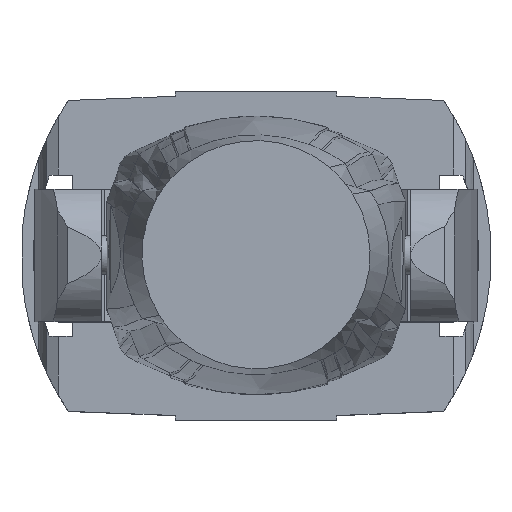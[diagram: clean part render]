
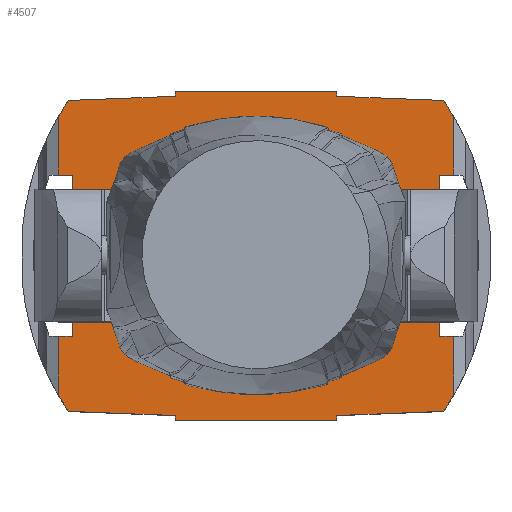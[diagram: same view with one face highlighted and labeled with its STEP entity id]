
A CAD part, top view. The second image highlights one B-rep face of the part: STEP entity #4507.
In plain terms, the highlighted planar face has unit normal (0, 0, 1).
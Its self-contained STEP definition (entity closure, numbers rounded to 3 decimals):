
#491=CIRCLE('',#4878,25.);
#492=CIRCLE('',#4879,286.325);
#493=CIRCLE('',#4880,286.325);
#494=CIRCLE('',#4881,286.325);
#495=CIRCLE('',#4882,286.325);
#777=ORIENTED_EDGE('',*,*,#2090,.T.);
#778=ORIENTED_EDGE('',*,*,#2091,.F.);
#779=ORIENTED_EDGE('',*,*,#2092,.F.);
#780=ORIENTED_EDGE('',*,*,#1968,.F.);
#781=ORIENTED_EDGE('',*,*,#2093,.F.);
#782=ORIENTED_EDGE('',*,*,#2094,.F.);
#783=ORIENTED_EDGE('',*,*,#2095,.F.);
#784=ORIENTED_EDGE('',*,*,#2053,.T.);
#785=ORIENTED_EDGE('',*,*,#2050,.F.);
#786=ORIENTED_EDGE('',*,*,#2041,.F.);
#787=ORIENTED_EDGE('',*,*,#2045,.T.);
#788=ORIENTED_EDGE('',*,*,#2096,.F.);
#789=ORIENTED_EDGE('',*,*,#2097,.T.);
#790=ORIENTED_EDGE('',*,*,#2098,.T.);
#791=ORIENTED_EDGE('',*,*,#2099,.T.);
#792=ORIENTED_EDGE('',*,*,#2100,.T.);
#793=ORIENTED_EDGE('',*,*,#2101,.T.);
#794=ORIENTED_EDGE('',*,*,#2102,.T.);
#795=ORIENTED_EDGE('',*,*,#2103,.T.);
#796=ORIENTED_EDGE('',*,*,#2104,.T.);
#797=ORIENTED_EDGE('',*,*,#2023,.T.);
#798=ORIENTED_EDGE('',*,*,#2027,.F.);
#799=ORIENTED_EDGE('',*,*,#2048,.F.);
#800=ORIENTED_EDGE('',*,*,#2088,.F.);
#801=ORIENTED_EDGE('',*,*,#2105,.F.);
#1968=EDGE_CURVE('',#2647,#2644,#3099,.T.);
#2023=EDGE_CURVE('',#2701,#2700,#3126,.T.);
#2027=EDGE_CURVE('',#2702,#2700,#3130,.T.);
#2041=EDGE_CURVE('',#2715,#2716,#3134,.T.);
#2045=EDGE_CURVE('',#2715,#2717,#3138,.T.);
#2048=EDGE_CURVE('',#2718,#2702,#3141,.T.);
#2050=EDGE_CURVE('',#2716,#2719,#3143,.T.);
#2053=EDGE_CURVE('',#2721,#2719,#3146,.T.);
#2088=EDGE_CURVE('',#2741,#2718,#3166,.T.);
#2090=EDGE_CURVE('',#2742,#2742,#491,.T.);
#2091=EDGE_CURVE('',#2743,#2744,#3167,.T.);
#2092=EDGE_CURVE('',#2644,#2743,#3168,.T.);
#2093=EDGE_CURVE('',#2745,#2647,#3169,.T.);
#2094=EDGE_CURVE('',#2746,#2745,#3170,.T.);
#2095=EDGE_CURVE('',#2721,#2746,#492,.T.);
#2096=EDGE_CURVE('',#2747,#2717,#3171,.T.);
#2097=EDGE_CURVE('',#2747,#2748,#493,.T.);
#2098=EDGE_CURVE('',#2748,#2749,#3172,.T.);
#2099=EDGE_CURVE('',#2749,#2750,#3173,.T.);
#2100=EDGE_CURVE('',#2750,#2751,#3174,.T.);
#2101=EDGE_CURVE('',#2751,#2752,#3175,.T.);
#2102=EDGE_CURVE('',#2752,#2753,#3176,.T.);
#2103=EDGE_CURVE('',#2753,#2754,#494,.T.);
#2104=EDGE_CURVE('',#2754,#2701,#3177,.T.);
#2105=EDGE_CURVE('',#2744,#2741,#495,.T.);
#2644=VERTEX_POINT('',#6146);
#2647=VERTEX_POINT('',#6151);
#2700=VERTEX_POINT('',#6284);
#2701=VERTEX_POINT('',#6286);
#2702=VERTEX_POINT('',#6291);
#2715=VERTEX_POINT('',#6342);
#2716=VERTEX_POINT('',#6344);
#2717=VERTEX_POINT('',#6349);
#2718=VERTEX_POINT('',#6354);
#2719=VERTEX_POINT('',#6359);
#2721=VERTEX_POINT('',#6365);
#2741=VERTEX_POINT('',#6454);
#2742=VERTEX_POINT('',#6458);
#2743=VERTEX_POINT('',#6460);
#2744=VERTEX_POINT('',#6461);
#2745=VERTEX_POINT('',#6464);
#2746=VERTEX_POINT('',#6466);
#2747=VERTEX_POINT('',#6469);
#2748=VERTEX_POINT('',#6471);
#2749=VERTEX_POINT('',#6473);
#2750=VERTEX_POINT('',#6475);
#2751=VERTEX_POINT('',#6477);
#2752=VERTEX_POINT('',#6479);
#2753=VERTEX_POINT('',#6481);
#2754=VERTEX_POINT('',#6483);
#3099=LINE('',#6152,#3389);
#3126=LINE('',#6285,#3416);
#3130=LINE('',#6292,#3420);
#3134=LINE('',#6343,#3424);
#3138=LINE('',#6350,#3428);
#3141=LINE('',#6355,#3431);
#3143=LINE('',#6358,#3433);
#3146=LINE('',#6364,#3436);
#3166=LINE('',#6453,#3456);
#3167=LINE('',#6459,#3457);
#3168=LINE('',#6462,#3458);
#3169=LINE('',#6463,#3459);
#3170=LINE('',#6465,#3460);
#3171=LINE('',#6468,#3461);
#3172=LINE('',#6472,#3462);
#3173=LINE('',#6474,#3463);
#3174=LINE('',#6476,#3464);
#3175=LINE('',#6478,#3465);
#3176=LINE('',#6480,#3466);
#3177=LINE('',#6484,#3467);
#3389=VECTOR('',#5171,1000.);
#3416=VECTOR('',#5252,1000.);
#3420=VECTOR('',#5258,1000.);
#3424=VECTOR('',#5278,1000.);
#3428=VECTOR('',#5284,1000.);
#3431=VECTOR('',#5289,1000.);
#3433=VECTOR('',#5293,1000.);
#3436=VECTOR('',#5298,1000.);
#3456=VECTOR('',#5366,1000.);
#3457=VECTOR('',#5373,1000.);
#3458=VECTOR('',#5374,1000.);
#3459=VECTOR('',#5375,1000.);
#3460=VECTOR('',#5376,1000.);
#3461=VECTOR('',#5379,1000.);
#3462=VECTOR('',#5382,1000.);
#3463=VECTOR('',#5383,1000.);
#3464=VECTOR('',#5384,1000.);
#3465=VECTOR('',#5385,1000.);
#3466=VECTOR('',#5386,1000.);
#3467=VECTOR('',#5389,1000.);
#3713=EDGE_LOOP('',(#777));
#3714=EDGE_LOOP('',(#778,#779,#780,#781,#782,#783,#784,#785,#786,#787,#788,
#789,#790,#791,#792,#793,#794,#795,#796,#797,#798,#799,#800,#801));
#4062=FACE_BOUND('',#3713,.T.);
#4063=FACE_BOUND('',#3714,.T.);
#4385=PLANE('',#4877);
#4507=ADVANCED_FACE('',(#4062,#4063),#4385,.F.);
#4877=AXIS2_PLACEMENT_3D('',#6456,#5369,#5370);
#4878=AXIS2_PLACEMENT_3D('',#6457,#5371,#5372);
#4879=AXIS2_PLACEMENT_3D('',#6467,#5377,#5378);
#4880=AXIS2_PLACEMENT_3D('',#6470,#5380,#5381);
#4881=AXIS2_PLACEMENT_3D('',#6482,#5387,#5388);
#4882=AXIS2_PLACEMENT_3D('',#6485,#5390,#5391);
#5171=DIRECTION('',(-1.,0.,0.));
#5252=DIRECTION('',(1.,0.,0.));
#5258=DIRECTION('',(0.,1.,0.));
#5278=DIRECTION('',(0.,-1.,0.));
#5284=DIRECTION('',(1.,0.,0.));
#5289=DIRECTION('',(1.,0.,0.));
#5293=DIRECTION('',(1.,0.,0.));
#5298=DIRECTION('',(0.,1.,0.));
#5366=DIRECTION('',(0.,1.,0.));
#5369=DIRECTION('',(0.,0.,-1.));
#5370=DIRECTION('',(-1.,0.,0.));
#5371=DIRECTION('',(0.,0.,-1.));
#5372=DIRECTION('',(-1.,0.,0.));
#5373=DIRECTION('',(-0.999,0.039,0.));
#5374=DIRECTION('',(0.,1.,0.));
#5375=DIRECTION('',(0.,-1.,0.));
#5376=DIRECTION('',(-0.999,-0.039,0.));
#5377=DIRECTION('',(0.,0.,-1.));
#5378=DIRECTION('',(-1.,0.,0.));
#5379=DIRECTION('',(0.,-1.,0.));
#5380=DIRECTION('',(0.,0.,1.));
#5381=DIRECTION('',(1.,0.,0.));
#5382=DIRECTION('',(-0.999,0.039,0.));
#5383=DIRECTION('',(0.,1.,0.));
#5384=DIRECTION('',(-1.,0.,0.));
#5385=DIRECTION('',(0.,-1.,0.));
#5386=DIRECTION('',(-0.999,-0.039,0.));
#5387=DIRECTION('',(0.,0.,1.));
#5388=DIRECTION('',(1.,0.,0.));
#5389=DIRECTION('',(0.,-1.,0.));
#5390=DIRECTION('',(0.,0.,-1.));
#5391=DIRECTION('',(-1.,0.,0.));
#6146=CARTESIAN_POINT('',(-83.303,-169.654,102.853));
#6151=CARTESIAN_POINT('',(83.303,-169.654,102.853));
#6152=CARTESIAN_POINT('',(-83.303,-169.654,102.853));
#6284=CARTESIAN_POINT('',(-189.287,83.367,102.853));
#6285=CARTESIAN_POINT('',(-212.646,83.367,102.853));
#6286=CARTESIAN_POINT('',(-203.675,83.367,102.853));
#6291=CARTESIAN_POINT('',(-189.287,-82.964,102.853));
#6292=CARTESIAN_POINT('',(-189.287,83.367,102.853));
#6342=CARTESIAN_POINT('',(189.287,83.367,102.853));
#6343=CARTESIAN_POINT('',(189.287,83.367,102.853));
#6344=CARTESIAN_POINT('',(189.287,-82.964,102.853));
#6349=CARTESIAN_POINT('',(203.675,83.367,102.853));
#6350=CARTESIAN_POINT('',(212.646,83.367,102.853));
#6354=CARTESIAN_POINT('',(-203.675,-82.964,102.853));
#6355=CARTESIAN_POINT('',(-212.646,-82.964,102.853));
#6358=CARTESIAN_POINT('',(212.646,-82.964,102.853));
#6359=CARTESIAN_POINT('',(203.675,-82.964,102.853));
#6364=CARTESIAN_POINT('',(203.675,-602.76,102.853));
#6365=CARTESIAN_POINT('',(203.675,-143.751,102.853));
#6453=CARTESIAN_POINT('',(-203.675,-602.76,102.853));
#6454=CARTESIAN_POINT('',(-203.675,-143.751,102.853));
#6456=CARTESIAN_POINT('',(203.675,-602.76,102.853));
#6457=CARTESIAN_POINT('',(0.,0.,102.853));
#6458=CARTESIAN_POINT('',(-25.,0.,102.853));
#6459=CARTESIAN_POINT('',(-193.314,-160.277,102.853));
#6460=CARTESIAN_POINT('',(-83.303,-164.605,102.853));
#6461=CARTESIAN_POINT('',(-193.314,-160.277,102.853));
#6462=CARTESIAN_POINT('',(-83.303,-164.605,102.853));
#6463=CARTESIAN_POINT('',(83.303,-164.605,102.853));
#6464=CARTESIAN_POINT('',(83.303,-164.605,102.853));
#6465=CARTESIAN_POINT('',(193.314,-160.277,102.853));
#6466=CARTESIAN_POINT('',(193.314,-160.277,102.853));
#6467=CARTESIAN_POINT('',(-43.959,-0.017,102.853));
#6468=CARTESIAN_POINT('',(203.675,602.76,102.853));
#6469=CARTESIAN_POINT('',(203.675,143.718,102.853));
#6470=CARTESIAN_POINT('',(-43.959,-0.017,102.853));
#6471=CARTESIAN_POINT('',(193.296,160.271,102.853));
#6472=CARTESIAN_POINT('',(193.296,160.271,102.853));
#6473=CARTESIAN_POINT('',(83.303,164.605,102.853));
#6474=CARTESIAN_POINT('',(83.303,164.605,102.853));
#6475=CARTESIAN_POINT('',(83.303,169.654,102.853));
#6476=CARTESIAN_POINT('',(-83.303,169.654,102.853));
#6477=CARTESIAN_POINT('',(-83.303,169.654,102.853));
#6478=CARTESIAN_POINT('',(-83.303,164.605,102.853));
#6479=CARTESIAN_POINT('',(-83.303,164.605,102.853));
#6480=CARTESIAN_POINT('',(-193.296,160.271,102.853));
#6481=CARTESIAN_POINT('',(-193.296,160.271,102.853));
#6482=CARTESIAN_POINT('',(43.959,-0.017,102.853));
#6483=CARTESIAN_POINT('',(-203.675,143.718,102.853));
#6484=CARTESIAN_POINT('',(-203.675,602.76,102.853));
#6485=CARTESIAN_POINT('',(43.959,-0.017,102.853));
